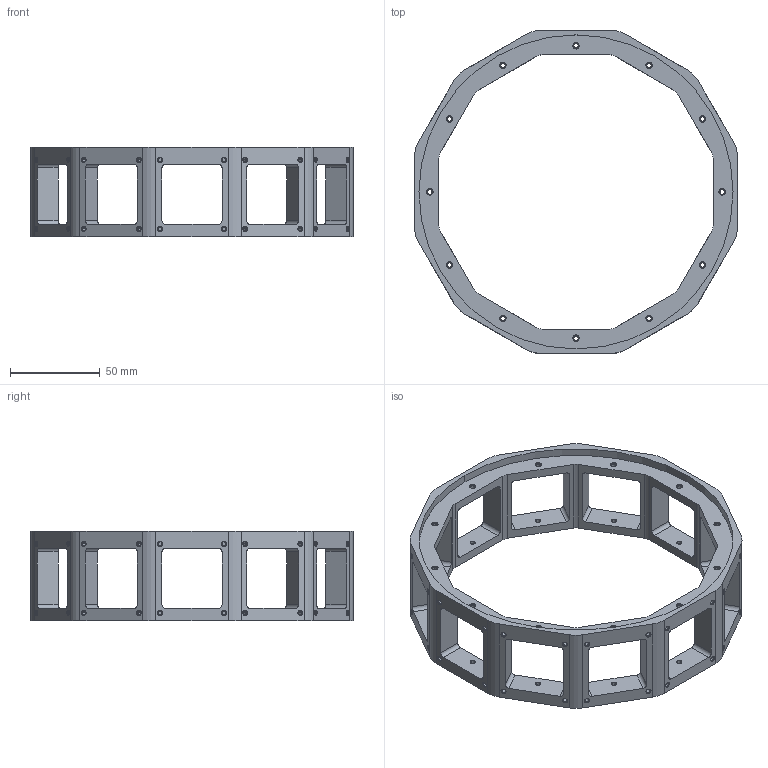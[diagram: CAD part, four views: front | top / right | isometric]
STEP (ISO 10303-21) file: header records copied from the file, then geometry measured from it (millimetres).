
FILE_DESCRIPTION(/* description */ ('VariCAD 2008 3.04 AP-203'),/* implementation_level */ '2;1');
FILE_NAME(/* name */ '0353-10-05',/* time_stamp */ '2009-04-25T09:58:43-06:00',/* author */ (''),/* organization */ (''),/* preprocessor_version */ 'ST-DEVELOPER v12',/* originating_system */ 'VariCAD 2008 3.04; kernel version (20080715)',/* authorisation */ '');
FILE_SCHEMA (('CONFIG_CONTROL_DESIGN'));
Length unit declared in the file: millimetre
Products named in the file (1): Part
Bounding box: 180 x 180 x 50 mm (x, y, z)
Volume: 143022.4 mm3; surface area: 72427.9 mm2
Topology: 73 solids, 73 shells, 1136 faces, 2460 edges, 1496 vertices
Faces by surface type: cylinder 604, cone 288, plane 244
Entity records: 31770 total; most frequent: DIRECTION 6232, CARTESIAN_POINT 5166, ORIENTED_EDGE 4920, AXIS2_PLACEMENT_3D 2562, EDGE_CURVE 2460, VERTEX_POINT 1496, EDGE_LOOP 1380, CIRCLE 1352
